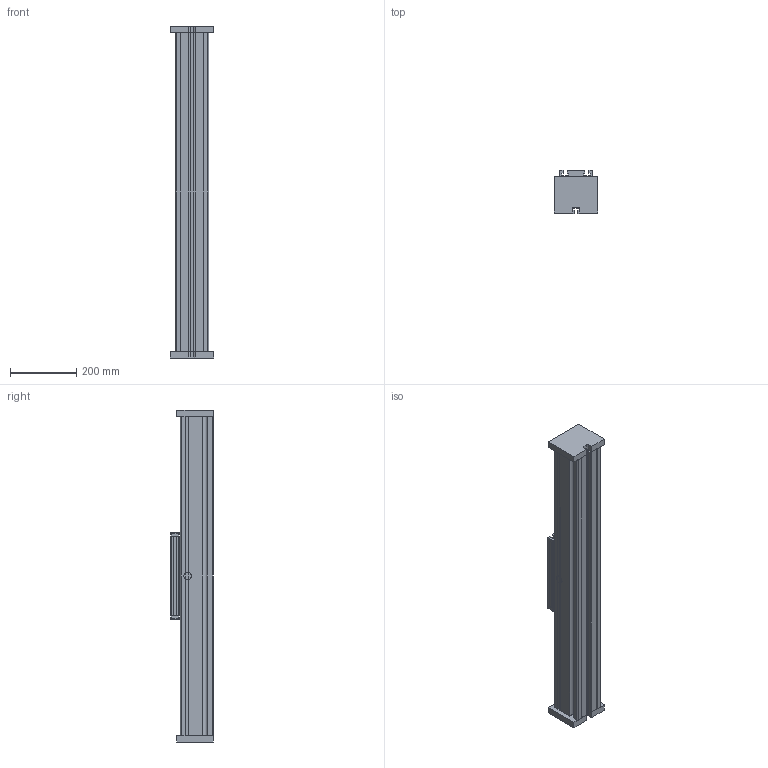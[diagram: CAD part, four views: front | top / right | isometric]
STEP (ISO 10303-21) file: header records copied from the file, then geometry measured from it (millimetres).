
FILE_DESCRIPTION (( 'STEP AP214' ), '1' );
FILE_NAME ('QLR100.STEP', '2022-06-29T11:19:30', ( '' ), ( '' ), 'SwSTEP 2.0', 'SolidWorks 2020', '' );
FILE_SCHEMA (( 'AUTOMOTIVE_DESIGN' ));
Length unit declared in the file: millimetre
Products named in the file (4): QLR100; profile^QLR100; end plate^QLR100; carriage^QLR100_carriage version 0
Assembly tree (4 placements, depth 2):
  QLR100
    profile^QLR100
    carriage^QLR100_carriage version 0
    end plate^QLR100  x2
Bounding box: 130 x 129 x 1000 mm (x, y, z)
Volume: 7576586.7 mm3; surface area: 795266.7 mm2
Topology: 8 solids, 8 shells, 205 faces, 551 edges, 362 vertices
Faces by surface type: plane 156, cylinder 41, torus 8
Entity records: 6246 total; most frequent: CARTESIAN_POINT 1063, ORIENTED_EDGE 1042, DIRECTION 1007, EDGE_CURVE 521, LINE 435, VECTOR 435, VERTEX_POINT 342, AXIS2_PLACEMENT_3D 286
